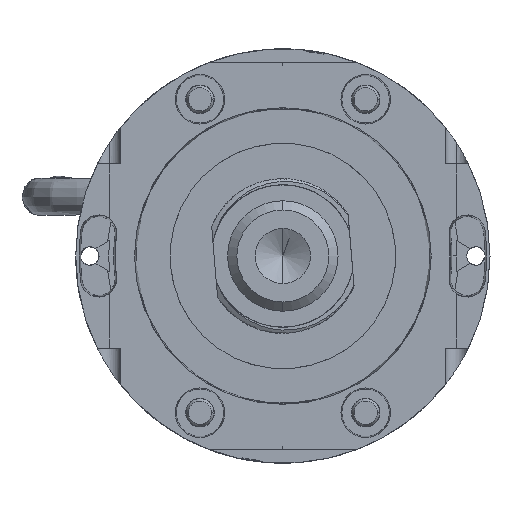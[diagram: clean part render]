
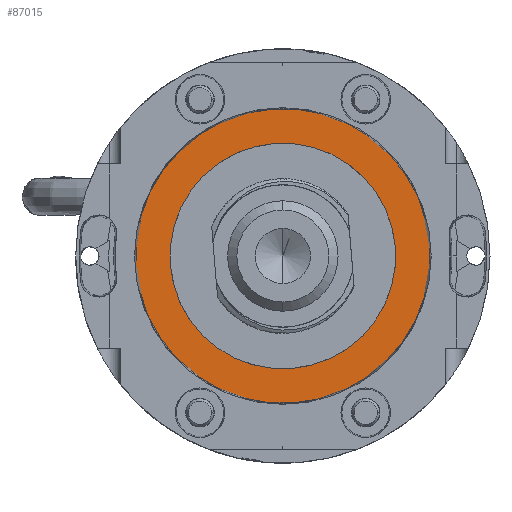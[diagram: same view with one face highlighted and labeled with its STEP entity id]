
A CAD part, front view. The second image highlights one B-rep face of the part: STEP entity #87015.
In plain terms, the highlighted planar face has unit normal (0, -1, 0).
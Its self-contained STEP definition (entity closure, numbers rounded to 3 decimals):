
#86991 = EDGE_CURVE ( 'NONE', #87045, #87044, #97345, .T. ) ;
#86992 = ORIENTED_EDGE ( 'NONE', *, *, #87043, .T. ) ;
#86993 = EDGE_LOOP ( 'NONE', ( #86994, #86995 ) ) ;
#86994 = ORIENTED_EDGE ( 'NONE', *, *, #87004, .F. ) ;
#86995 = ORIENTED_EDGE ( 'NONE', *, *, #86996, .F. ) ;
#86996 = EDGE_CURVE ( 'NONE', #87006, #87005, #97341, .T. ) ;
#87004 = EDGE_CURVE ( 'NONE', #87005, #87006, #97329, .T. ) ;
#87005 = VERTEX_POINT ( 'NONE', #97325 ) ;
#87006 = VERTEX_POINT ( 'NONE', #97324 ) ;
#87015 = ADVANCED_FACE ( 'NONE', ( #97372, #97371 ), #97370, .F. ) ;
#87016 = EDGE_LOOP ( 'NONE', ( #87017, #86992 ) ) ;
#87017 = ORIENTED_EDGE ( 'NONE', *, *, #86991, .T. ) ;
#87043 = EDGE_CURVE ( 'NONE', #87044, #87045, #97452, .T. ) ;
#87044 = VERTEX_POINT ( 'NONE', #97447 ) ;
#87045 = VERTEX_POINT ( 'NONE', #97446 ) ;
#97324 = CARTESIAN_POINT ( 'NONE',  ( 0., -4.5, -16. ) ) ;
#97325 = CARTESIAN_POINT ( 'NONE',  ( 0., -4.5, 16. ) ) ;
#97326 = DIRECTION ( 'NONE',  ( 0., 0., 1. ) ) ;
#97327 = DIRECTION ( 'NONE',  ( 0., 1., 0. ) ) ;
#97328 = AXIS2_PLACEMENT_3D ( 'NONE', #97334, #97327, #97326 ) ;
#97329 = CIRCLE ( 'NONE', #97328, 16. ) ;
#97334 = CARTESIAN_POINT ( 'NONE',  ( 0., -4.5, 0. ) ) ;
#97337 = DIRECTION ( 'NONE',  ( 0., 0., 1. ) ) ;
#97338 = DIRECTION ( 'NONE',  ( 0., 1., 0. ) ) ;
#97339 = CARTESIAN_POINT ( 'NONE',  ( 0., -4.5, 0. ) ) ;
#97340 = AXIS2_PLACEMENT_3D ( 'NONE', #97339, #97338, #97337 ) ;
#97341 = CIRCLE ( 'NONE', #97340, 16. ) ;
#97342 = DIRECTION ( 'NONE',  ( 0., 0., 1. ) ) ;
#97343 = DIRECTION ( 'NONE',  ( 0., 1., 0. ) ) ;
#97344 = AXIS2_PLACEMENT_3D ( 'NONE', #97351, #97343, #97342 ) ;
#97345 = CIRCLE ( 'NONE', #97344, 12.25 ) ;
#97351 = CARTESIAN_POINT ( 'NONE',  ( 0., -4.5, 0. ) ) ;
#97366 = DIRECTION ( 'NONE',  ( 0., 0., 1. ) ) ;
#97367 = DIRECTION ( 'NONE',  ( 0., 1., 0. ) ) ;
#97368 = CARTESIAN_POINT ( 'NONE',  ( 7.5, -4.5, 0. ) ) ;
#97369 = AXIS2_PLACEMENT_3D ( 'NONE', #97368, #97367, #97366 ) ;
#97370 = PLANE ( 'NONE',  #97369 ) ;
#97371 = FACE_OUTER_BOUND ( 'NONE', #86993, .T. ) ;
#97372 = FACE_BOUND ( 'NONE', #87016, .T. ) ;
#97446 = CARTESIAN_POINT ( 'NONE',  ( 0., -4.5, 12.25 ) ) ;
#97447 = CARTESIAN_POINT ( 'NONE',  ( 0., -4.5, -12.25 ) ) ;
#97448 = DIRECTION ( 'NONE',  ( 0., 0., 1. ) ) ;
#97449 = DIRECTION ( 'NONE',  ( 0., 1., 0. ) ) ;
#97450 = CARTESIAN_POINT ( 'NONE',  ( 0., -4.5, 0. ) ) ;
#97451 = AXIS2_PLACEMENT_3D ( 'NONE', #97450, #97449, #97448 ) ;
#97452 = CIRCLE ( 'NONE', #97451, 12.25 ) ;
